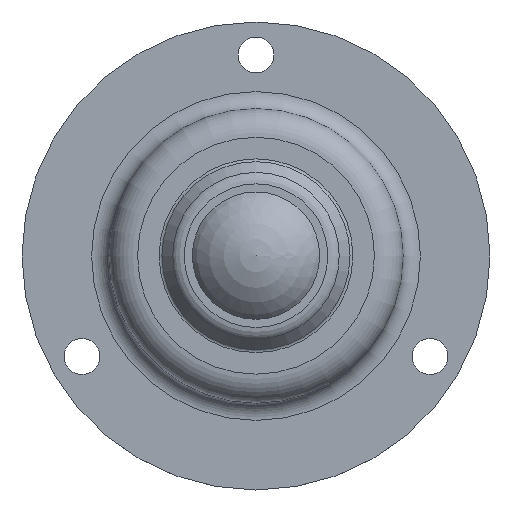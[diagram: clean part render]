
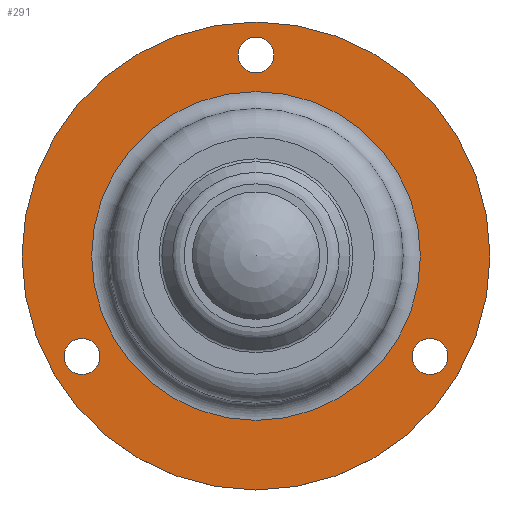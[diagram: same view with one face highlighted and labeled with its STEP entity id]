
A CAD part, top view. The second image highlights one B-rep face of the part: STEP entity #291.
In plain terms, the highlighted planar face has unit normal (0, 0, 1).
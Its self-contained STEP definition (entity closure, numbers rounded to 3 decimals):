
#17=PLANE('',#327);
#58=FACE_BOUND('',#115,.T.);
#59=FACE_BOUND('',#116,.T.);
#60=FACE_BOUND('',#117,.T.);
#61=FACE_BOUND('',#118,.T.);
#86=FACE_OUTER_BOUND('',#114,.T.);
#114=EDGE_LOOP('',(#239));
#115=EDGE_LOOP('',(#240));
#116=EDGE_LOOP('',(#241));
#117=EDGE_LOOP('',(#242));
#118=EDGE_LOOP('',(#243));
#154=CIRCLE('',#312,32.6);
#157=CIRCLE('',#317,2.5);
#159=CIRCLE('',#320,2.5);
#161=CIRCLE('',#323,2.5);
#162=CIRCLE('',#325,22.9);
#179=VERTEX_POINT('',#460);
#182=VERTEX_POINT('',#468);
#184=VERTEX_POINT('',#473);
#186=VERTEX_POINT('',#478);
#187=VERTEX_POINT('',#481);
#204=EDGE_CURVE('',#179,#179,#154,.T.);
#207=EDGE_CURVE('',#182,#182,#157,.T.);
#209=EDGE_CURVE('',#184,#184,#159,.T.);
#211=EDGE_CURVE('',#186,#186,#161,.T.);
#212=EDGE_CURVE('',#187,#187,#162,.T.);
#239=ORIENTED_EDGE('',*,*,#204,.F.);
#240=ORIENTED_EDGE('',*,*,#207,.T.);
#241=ORIENTED_EDGE('',*,*,#209,.T.);
#242=ORIENTED_EDGE('',*,*,#211,.T.);
#243=ORIENTED_EDGE('',*,*,#212,.T.);
#291=ADVANCED_FACE('',(#86,#58,#59,#60,#61),#17,.T.);
#312=AXIS2_PLACEMENT_3D('',#461,#364,#365);
#317=AXIS2_PLACEMENT_3D('',#469,#374,#375);
#320=AXIS2_PLACEMENT_3D('',#474,#380,#381);
#323=AXIS2_PLACEMENT_3D('',#479,#386,#387);
#325=AXIS2_PLACEMENT_3D('',#482,#390,#391);
#327=AXIS2_PLACEMENT_3D('',#485,#394,#395);
#364=DIRECTION('center_axis',(0.,0.,-1.));
#365=DIRECTION('ref_axis',(-1.,0.,0.));
#374=DIRECTION('center_axis',(0.,0.,-1.));
#375=DIRECTION('ref_axis',(-0.5,-0.866,0.));
#380=DIRECTION('center_axis',(0.,0.,-1.));
#381=DIRECTION('ref_axis',(-0.5,0.866,0.));
#386=DIRECTION('center_axis',(0.,0.,-1.));
#387=DIRECTION('ref_axis',(1.,0.,0.));
#390=DIRECTION('center_axis',(0.,0.,-1.));
#391=DIRECTION('ref_axis',(0.,1.,0.));
#394=DIRECTION('center_axis',(0.,0.,1.));
#395=DIRECTION('ref_axis',(1.,0.,0.));
#460=CARTESIAN_POINT('',(32.6,0.,1.6));
#461=CARTESIAN_POINT('Origin',(0.,0.,1.6));
#468=CARTESIAN_POINT('',(22.999,-16.165,1.6));
#469=CARTESIAN_POINT('Origin',(24.249,-14.,1.6));
#473=CARTESIAN_POINT('',(-25.499,-11.835,1.6));
#474=CARTESIAN_POINT('Origin',(-24.249,-14.,1.6));
#478=CARTESIAN_POINT('',(2.5,28.,1.6));
#479=CARTESIAN_POINT('Origin',(0.,28.,1.6));
#481=CARTESIAN_POINT('',(0.,22.9,1.6));
#482=CARTESIAN_POINT('Origin',(0.,0.,1.6));
#485=CARTESIAN_POINT('Origin',(0.,27.7,1.6));
